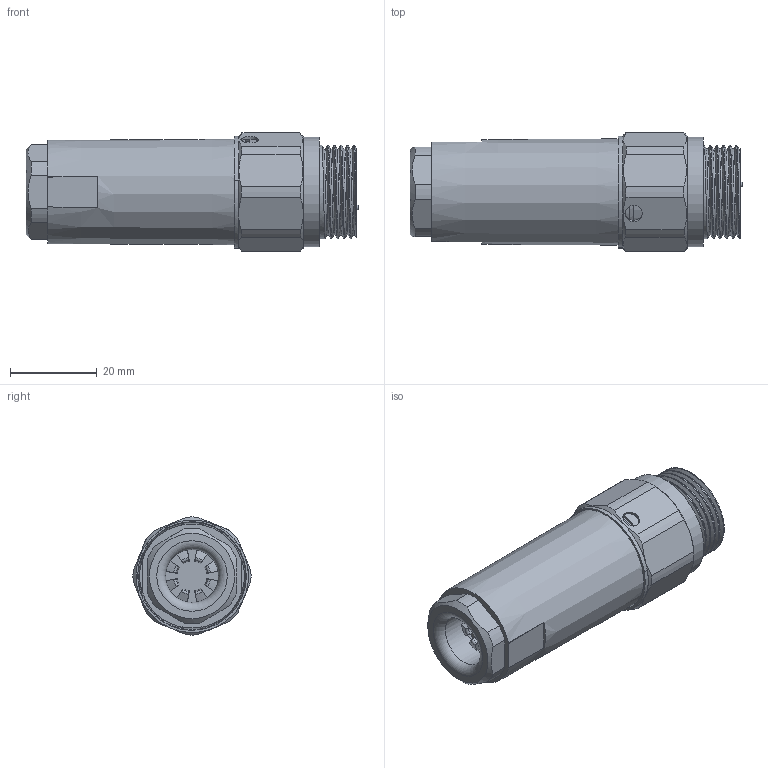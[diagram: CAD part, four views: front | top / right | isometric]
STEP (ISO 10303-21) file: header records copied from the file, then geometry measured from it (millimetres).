
FILE_DESCRIPTION(/* description */ (''),/* implementation_level */ '2;1');
FILE_NAME(/* name */ '7 8 4MS-PG11_stp.stp',/* time_stamp */ '2024-09-14T09:10:17+08:00',/* author */ (''),/* organization */ (''),/* preprocessor_version */ 'ST-DEVELOPER v16.7',/* originating_system */ 'SIEMENS PLM Software NX 12.0',/* authorisation */ '');
FILE_SCHEMA (('AP203_CONFIGURATION_CONTROLLED_3D_DESIGN_OF_MECHANICAL_PARTS_AND_ASSEMBLIES_MIM_LF { 1 0 10303 403 2 1 2}'));
Length unit declared in the file: millimetre
Products named in the file (1): lyj43E03B3Ds2hh
Bounding box: 76.44 x 27.2 x 27.2 mm (x, y, z)
Volume: 31331.9 mm3; surface area: 13966.1 mm2
Topology: 1 solids, 5 shells, 298 faces, 792 edges, 527 vertices
Faces by surface type: cylinder 114, plane 93, cone 55, torus 22, bspline 8, revolution 6
Full cylindrical faces by diameter (mm): 2 x6, 3 x3, 3.1 x4, 3.3 x4, 4 x1, 12.2 x1, 18 x1, 18.3 x1, 20.3 x1, 22 x1, 23.2 x2, 24 x1, 25 x1, 25.2 x1
Entity records: 13877 total; most frequent: CARTESIAN_POINT 6643, DIRECTION 1519, ORIENTED_EDGE 1424, EDGE_CURVE 712, AXIS2_PLACEMENT_3D 621, VERTEX_POINT 496, EDGE_LOOP 380, CIRCLE 337
